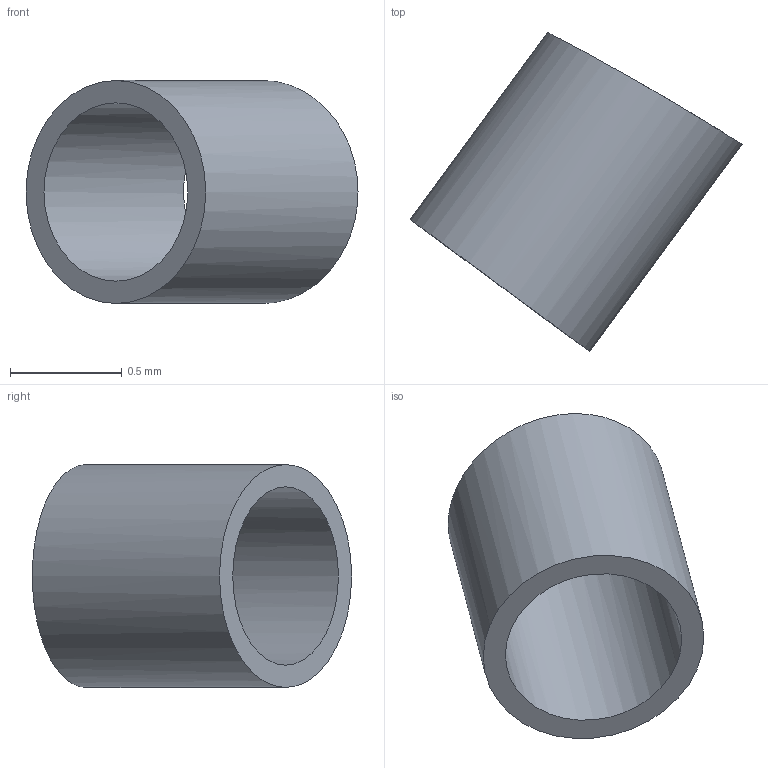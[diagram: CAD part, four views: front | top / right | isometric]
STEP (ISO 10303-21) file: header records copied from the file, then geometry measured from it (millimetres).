
FILE_DESCRIPTION(('FreeCAD Model'),'2;1');
FILE_NAME('Open CASCADE Shape Model','2026-10-23T21:15:57',('FreeCAD'),( 'FreeCAD'),'Open CASCADE STEP processor 7.8','FreeCAD','Unknown');
FILE_SCHEMA(('AUTOMOTIVE_DESIGN { 1 0 10303 214 1 1 1 1 }'));
Length unit declared in the file: millimetre
Products named in the file (1): Open CASCADE STEP translator 7.8 13
Bounding box: 1.49 x 1.43 x 1 mm (x, y, z)
Volume: 0.3 mm3; surface area: 6.8 mm2
Topology: 1 solids, 1 shells, 4 faces, 8 edges, 6 vertices
Faces by surface type: cylinder 2, revolution 1, plane 1
Full cylindrical faces by diameter (mm): 0.8 x1, 1 x1
Entity records: 246 total; most frequent: CARTESIAN_POINT 149, ORIENTED_EDGE 16, DIRECTION 15, EDGE_CURVE 8, AXIS2_PLACEMENT_3D 6, FACE_BOUND 6, EDGE_LOOP 6, VERTEX_POINT 6
